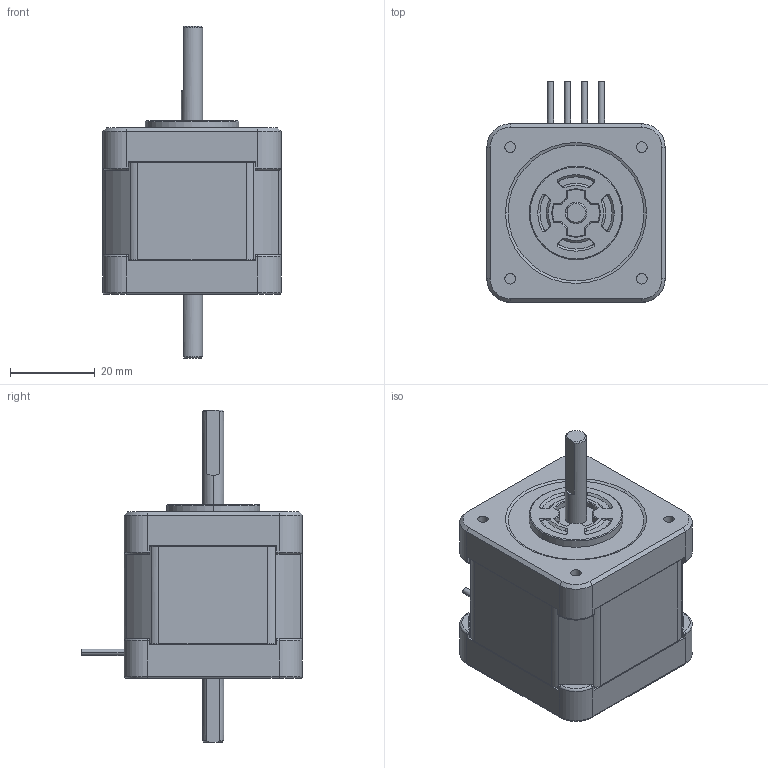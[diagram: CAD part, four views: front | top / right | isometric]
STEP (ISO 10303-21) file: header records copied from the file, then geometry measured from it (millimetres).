
FILE_DESCRIPTION (( 'STEP AP203' ), '1' );
FILE_NAME ('SH1422-5011.STEP', '2015-09-04T09:20:34', ( '' ), ( '' ), 'SwSTEP 2.0', 'SolidWorks 2014', '' );
FILE_SCHEMA (( 'CONFIG_CONTROL_DESIGN' ));
Length unit declared in the file: millimetre
Products named in the file (1): SH1422-5011
Bounding box: 42 x 52 x 78.2 mm (x, y, z)
Volume: 67528.8 mm3; surface area: 11601.2 mm2
Topology: 1 solids, 1 shells, 347 faces, 855 edges, 526 vertices
Faces by surface type: plane 152, cylinder 108, cone 57, bspline 18, torus 12
Entity records: 10684 total; most frequent: CARTESIAN_POINT 2503, ORIENTED_EDGE 1706, DIRECTION 1693, EDGE_CURVE 853, AXIS2_PLACEMENT_3D 624, VERTEX_POINT 526, VECTOR 445, LINE 445
